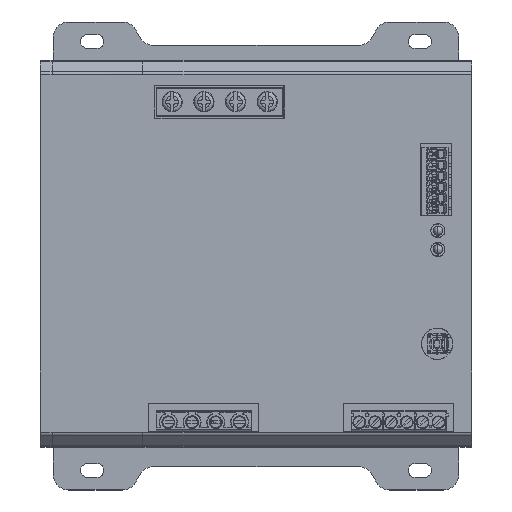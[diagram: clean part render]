
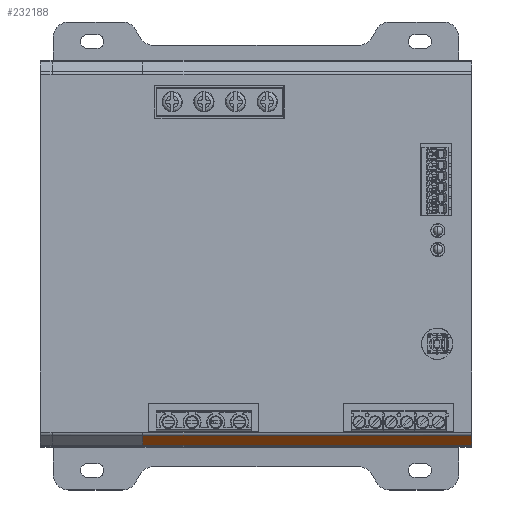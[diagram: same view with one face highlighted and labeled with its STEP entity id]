
A CAD part, top view. The second image highlights one B-rep face of the part: STEP entity #232188.
In plain terms, the highlighted free-form (B-spline) face has degree [1, 2] with [2, 3] control points.
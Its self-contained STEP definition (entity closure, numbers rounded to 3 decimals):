
#852 = EDGE_CURVE ( 'NONE', #225284, #88040, #173818, .T. ) ;
#19408 = CARTESIAN_POINT ( 'NONE',  ( 53.54, 179.554, 20.881 ) ) ;
#26440 = DIRECTION ( 'NONE',  ( 0., 0.707, 0.707 ) ) ;
#33588 = CARTESIAN_POINT ( 'NONE',  ( -51.862, 182.675, 24.002 ) ) ;
#47029 = ORIENTED_EDGE ( 'NONE', *, *, #281119, .F. ) ;
#51958 = LINE ( 'NONE', #73065, #172724 ) ;
#53489 = VERTEX_POINT ( 'NONE', #194221 ) ;
#56097 = CARTESIAN_POINT ( 'NONE',  ( 53.54, 179.554, 20.881 ) ) ;
#58865 = CARTESIAN_POINT ( 'NONE',  ( -51.862, 182.675, 24.002 ) ) ;
#63021 = CARTESIAN_POINT ( 'NONE',  ( -51.862, 179.554, 20.881 ) ) ;
#72741 = CARTESIAN_POINT ( 'NONE',  ( 53.54, 179.554, 20.881 ) ) ;
#73065 = CARTESIAN_POINT ( 'NONE',  ( -51.862, 179.554, 20.881 ) ) ;
#88016 = CARTESIAN_POINT ( 'NONE',  ( 53.54, 179.554, 20.881 ) ) ;
#88040 = VERTEX_POINT ( 'NONE', #145449 ) ;
#90866 = CARTESIAN_POINT ( 'NONE',  ( 53.54, 182.675, 24.002 ) ) ;
#102697 = CARTESIAN_POINT ( 'NONE',  ( 53.54, 182.675, 24.002 ) ) ;
#125220 = CARTESIAN_POINT ( 'NONE',  ( 53.54, 181.115, 22.442 ) ) ;
#132070 = VERTEX_POINT ( 'NONE', #33588 ) ;
#135914 = CARTESIAN_POINT ( 'NONE',  ( -55.66, 179.554, 20.881 ) ) ;
#145449 = CARTESIAN_POINT ( 'NONE',  ( 53.54, 182.675, 24.002 ) ) ;
#147113 = ORIENTED_EDGE ( 'NONE', *, *, #852, .T. ) ;
#162668 = B_SPLINE_SURFACE_WITH_KNOTS ( 'NONE', 1, 2, ( 
 ( #135914, #278736, #205141 ),
 ( #72741, #229161, #90866 ) ),
 .UNSPECIFIED., .F., .F., .F.,
 ( 2, 2 ),
 ( 3, 3 ),
 ( 0., 109.2 ),
 ( 0., 4.414 ),
 .UNSPECIFIED. ) ;
#172724 = VECTOR ( 'NONE', #26440, 1000. ) ;
#173818 = B_SPLINE_CURVE_WITH_KNOTS ( 'NONE', 2,
 ( #56097, #125220, #102697 ),
 .UNSPECIFIED., .F., .F.,
 ( 3, 3 ),
 ( 0., 1. ),
 .UNSPECIFIED. ) ;
#194221 = CARTESIAN_POINT ( 'NONE',  ( -51.862, 179.554, 20.881 ) ) ;
#195740 = EDGE_LOOP ( 'NONE', ( #295804, #47029, #277034, #147113 ) ) ;
#196233 = EDGE_CURVE ( 'NONE', #132070, #88040, #286876, .T. ) ;
#205141 = CARTESIAN_POINT ( 'NONE',  ( -55.66, 182.675, 24.002 ) ) ;
#222734 = CARTESIAN_POINT ( 'NONE',  ( 53.54, 182.675, 24.002 ) ) ;
#225284 = VERTEX_POINT ( 'NONE', #88016 ) ;
#229161 = CARTESIAN_POINT ( 'NONE',  ( 53.54, 181.115, 22.442 ) ) ;
#230632 = FACE_OUTER_BOUND ( 'NONE', #195740, .T. ) ;
#232188 = ADVANCED_FACE ( 'NONE', ( #230632 ), #162668, .T. ) ;
#263037 = EDGE_CURVE ( 'NONE', #53489, #225284, #287750, .T. ) ;
#277034 = ORIENTED_EDGE ( 'NONE', *, *, #263037, .T. ) ;
#278736 = CARTESIAN_POINT ( 'NONE',  ( -55.66, 181.115, 22.442 ) ) ;
#281119 = EDGE_CURVE ( 'NONE', #53489, #132070, #51958, .T. ) ;
#286876 = B_SPLINE_CURVE_WITH_KNOTS ( 'NONE', 1,
 ( #58865, #222734 ),
 .UNSPECIFIED., .F., .F.,
 ( 2, 2 ),
 ( 0.035, 1. ),
 .UNSPECIFIED. ) ;
#287750 = B_SPLINE_CURVE_WITH_KNOTS ( 'NONE', 1,
 ( #63021, #19408 ),
 .UNSPECIFIED., .F., .F.,
 ( 2, 2 ),
 ( 0.035, 1. ),
 .UNSPECIFIED. ) ;
#295804 = ORIENTED_EDGE ( 'NONE', *, *, #196233, .F. ) ;
